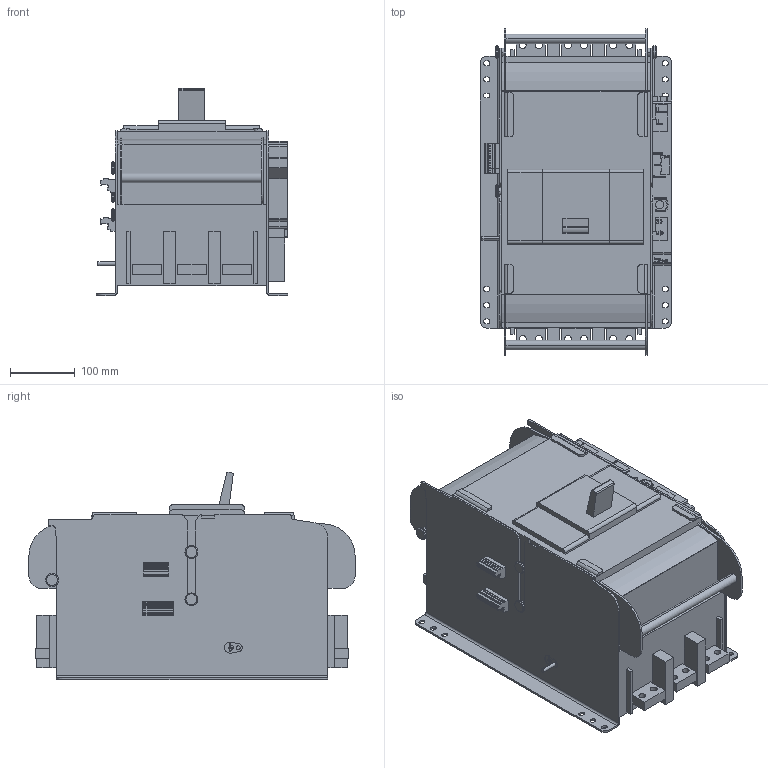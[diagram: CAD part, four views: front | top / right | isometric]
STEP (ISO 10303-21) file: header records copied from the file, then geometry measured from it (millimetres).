
FILE_DESCRIPTION (( 'STEP AP214' ), '1' );
FILE_NAME ('OptiMat D1600薰.STEP', '2023-07-03T12:29:54', ( '' ), ( '' ), 'SwSTEP 2.0', 'SolidWorks 2018', '' );
FILE_SCHEMA (( 'AUTOMOTIVE_DESIGN' ));
Length unit declared in the file: millimetre
Products named in the file (2): OptiMat D1600 âûäâèæíîå èñïîëíåíèå; OptiMat D1600薰
Assembly tree (1 placements, depth 2):
  OptiMat D1600薰
    OptiMat D1600 âûäâèæíîå èñïîëíåíèå
Bounding box: 296.4 x 505.7 x 321.24 mm (x, y, z)
Volume: 25111057.4 mm3; surface area: 884897.2 mm2
Topology: 1 solids, 1 shells, 1017 faces, 3362 edges, 2592 vertices
Faces by surface type: plane 657, cylinder 341, cone 16, bspline 3
Entity records: 42663 total; most frequent: CARTESIAN_POINT 12233, ORIENTED_EDGE 6724, DIRECTION 5707, EDGE_CURVE 3362, VERTEX_POINT 2592, VECTOR 2223, LINE 2223, AXIS2_PLACEMENT_3D 1742
